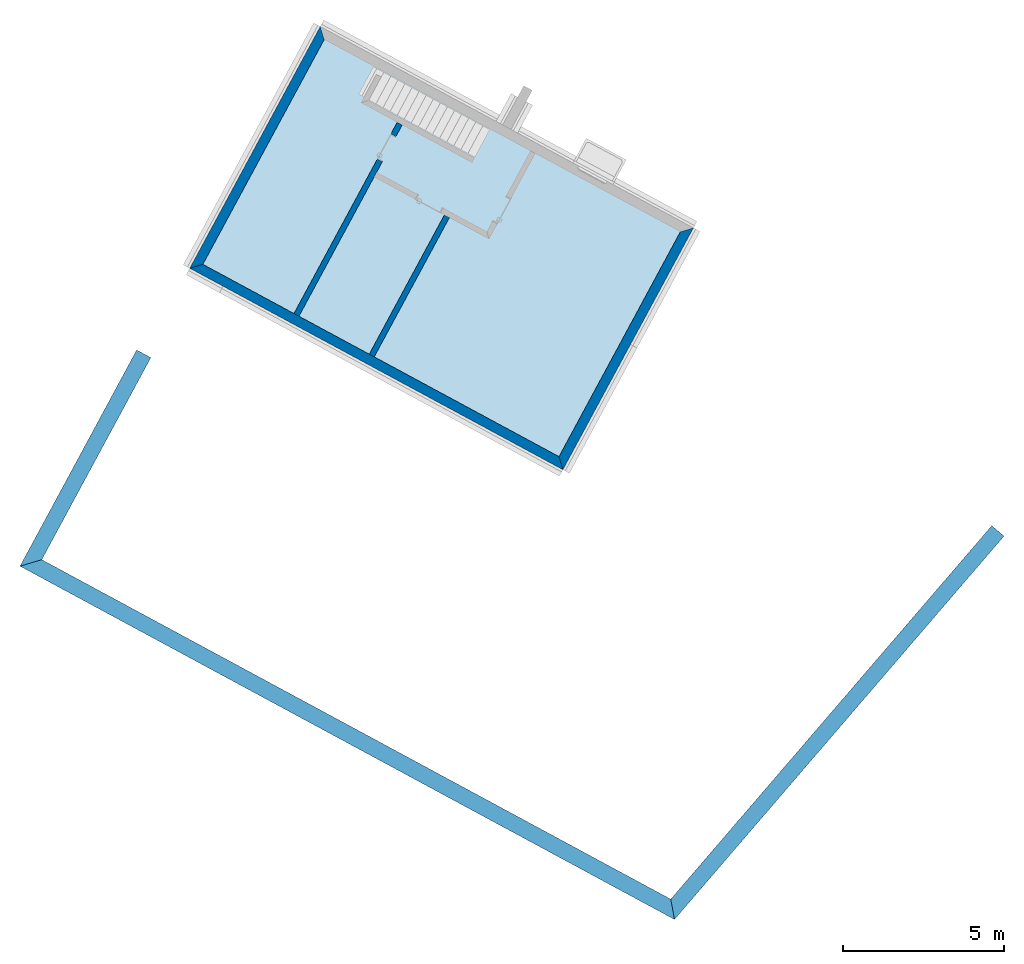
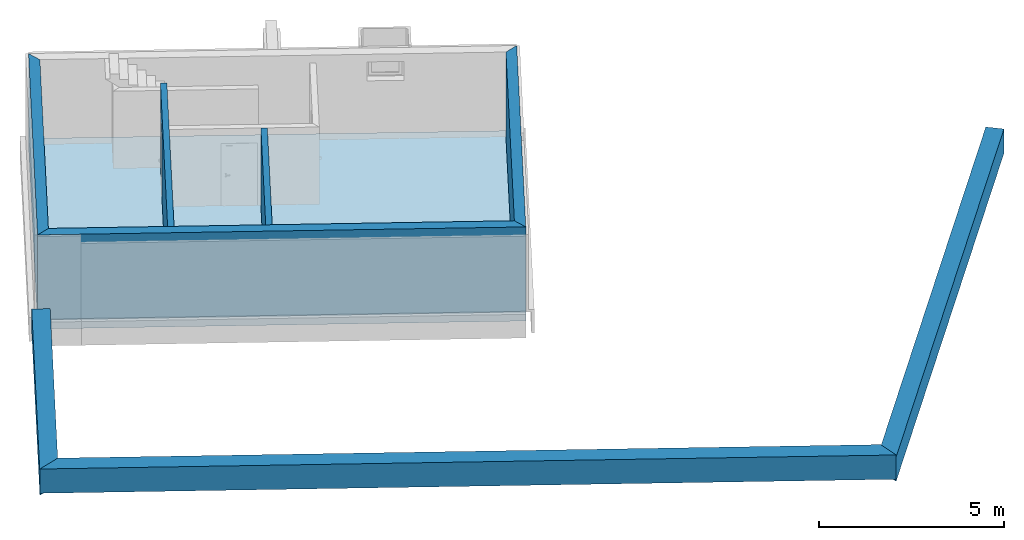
# One storey, part 1 of 8: 5 walls, 3 footings, 1 slab, 1 opening.
"""IFC2X3 building model written with IfcOpenShell, lengths in metres."""

from ifc_helpers import new_model, entity, si_unit, converted_unit, derived_unit, money_unit, direction, frame, origin_with_axes, origin_2d_with_axis, place, context, subcontext, project, spatial, polyline, rectangle, outline, extrude, material, layer, layer_set, layer_usage, type_object, element, save


model = new_model("IFC2X3")

# Units and contexts
model_context = context("Model", 3, precision=1e-05, world=origin_with_axes(), true_north=direction((0.0, 1.0)))
body_context = subcontext(model_context, "Body", "Model", "MODEL_VIEW")
ifc_project = project(units=[si_unit("LENGTHUNIT", "METRE"), si_unit("AREAUNIT", "SQUARE_METRE"), si_unit("VOLUMEUNIT", "CUBIC_METRE"), converted_unit("PLANEANGLEUNIT", "DEGREE", entity("IfcPlaneAngleMeasure", 0.0174532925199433), si_unit("PLANEANGLEUNIT", "RADIAN"), dimensions=[0, 0, 0, 0, 0, 0, 0]), money_unit("EUR"), converted_unit("TIMEUNIT", "Year", entity("IfcTimeMeasure", 31556926.0), si_unit("TIMEUNIT", "SECOND"), dimensions=[0, 0, 1, 0, 0, 0, 0]), si_unit("MASSUNIT", "GRAM", prefix="KILO"), si_unit("THERMODYNAMICTEMPERATUREUNIT", "DEGREE_CELSIUS"), si_unit("LUMINOUSINTENSITYUNIT", "LUMEN"), si_unit("ENERGYUNIT", "JOULE", prefix="MEGA"), derived_unit("THERMALCONDUCTANCEUNIT", [(si_unit("POWERUNIT", "WATT"), 1), (si_unit("LENGTHUNIT", "METRE"), -1), (si_unit("THERMODYNAMICTEMPERATUREUNIT", "KELVIN"), -1)]), derived_unit("SPECIFICHEATCAPACITYUNIT", [(si_unit("ENERGYUNIT", "JOULE"), 1), (si_unit("MASSUNIT", "GRAM", prefix="KILO"), -1), (si_unit("THERMODYNAMICTEMPERATUREUNIT", "KELVIN"), -1)]), derived_unit("MASSDENSITYUNIT", [(si_unit("MASSUNIT", "GRAM", prefix="KILO"), 1), (si_unit("VOLUMEUNIT", "CUBIC_METRE"), -1)])], contexts=[model_context])

# Site, building, storey
site_placement = place(None, frame((-3.949935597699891, 1.740105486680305, 0.0), z_axis=(0.0, 0.0, 1.0), x_axis=(0.8799804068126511, -0.475009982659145, 0.0)))
site = spatial("IfcSite", under=ifc_project, at=site_placement, Name="Gelände", CompositionType="ELEMENT")
building_placement = place(site_placement, origin_with_axes())
building = spatial("IfcBuilding", under=site, at=building_placement, Name="Gebäude", CompositionType="ELEMENT")
storey_placement = place(building_placement, frame((0.0, 0.0, -2.98), z_axis=(0.0, 0.0, 1.0), x_axis=(1.0, 0.0, 0.0)))
storey = spatial("IfcBuildingStorey", under=building, at=storey_placement, Name="Kellergeschoss", CompositionType="ELEMENT", Elevation=-2.98)

# Footings
ifc_material_1 = material(Name="Beton, Stahlbeton C30/35")
footing_1_placement = place(storey_placement, frame((3.937485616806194, 7.638058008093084, 1.68), z_axis=(0.0, 0.0, 1.0), x_axis=(-5.644432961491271e-07, -0.9999999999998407, 0.0)))
element("IfcFooting", 1, at=footing_1_placement, inside=storey, material=ifc_material_1, Name="A-Wand038", PredefinedType="STRIP_FOOTING", context=body_context, shape_type="SweptSolid", body=[
    extrude(outline(polyline([(0.0, 0.0), (7.638058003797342, 0.0), (7.138057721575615, 0.5000000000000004), (0.0, 0.5000000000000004), (0.0, 0.0)])), origin_with_axes(), (0.0, 0.0, 1.0), 0.8),
])
footing_2_placement = place(storey_placement, frame((27.06350757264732, 0.0, 1.68), z_axis=(0.0, 0.0, 1.0), x_axis=(0.2133784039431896, 0.9769696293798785, 0.0)))
element("IfcFooting", 2, at=footing_2_placement, inside=storey, material=ifc_material_1, Name="A-Wand037", PredefinedType="STRIP_FOOTING", context=body_context, shape_type="SweptSolid", body=[
    extrude(outline(polyline([(4.398252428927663e-09, 0.0), (15.71624542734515, 0.0), (15.71624542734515, 0.5), (0.4025824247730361, 0.5000000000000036), (4.398252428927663e-09, 0.0)])), origin_with_axes(), (0.0, 0.0, 1.0), 0.8000000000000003),
])
ifc_material_2 = material(Name="MW Kalksandstein")
footing_3_placement = place(storey_placement, frame((3.937481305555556, 4.296959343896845e-09, 1.75), z_axis=(0.0, 0.0, 1.0), x_axis=(1.0, 0.0, 0.0)))
element("IfcFooting", 3, at=footing_3_placement, inside=storey, material=ifc_material_2, Name="A-Wand036", PredefinedType="STRIP_FOOTING", context=body_context, shape_type="SweptSolid", body=[
    extrude(outline(polyline([(0.0, 0.0), (23.12602626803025, 0.0), (22.72344384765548, 0.5), (0.5000002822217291, 0.5), (0.0, 0.0)])), origin_with_axes(), (0.0, 0.0, 1.0), 0.8000000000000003),
])

# Slab
ifc_material_3 = material(Name="_SIWH - Beton, Stahlbeton")
ifc_layer_1 = layer(ifc_material_3, 0.3, ventilated="UNKNOWN")
ifc_layer_set_1 = layer_set([ifc_layer_1], Name="_SIWH - Beton, Stahlbeton 0.3")
ifc_layer_usage_1 = layer_usage(ifc_layer_set_1, "AXIS3", "NEGATIVE", 0.3)
slab_type = type_object("IfcSlabType", Name="_SIWH - Beton, Stahlbeton 300", PredefinedType="FLOOR")
slab_placement = place(storey_placement, frame((17.36747590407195, 19.20027477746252, 0.0), z_axis=(0.0, 0.0, 1.0), x_axis=(1.0, 0.0, 0.0)))
element("IfcSlab", 4, at=slab_placement, inside=storey, type_object=slab_type, material=ifc_layer_usage_1, Name="Decke027", PredefinedType="FLOOR", context=body_context, shape_type="SweptSolid", body=[
    extrude(outline(polyline([(0.0, 0.0), (-13.18499531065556, 0.0005885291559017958), (-13.1849411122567, -8.542475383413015), (5.71773993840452e-06, -8.542475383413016), (0.0, 0.0)])), frame((0.0, 0.0, -0.3), z_axis=(0.0, 0.0, 1.0), x_axis=(1.0, 0.0, 0.0)), (0.0, 0.0, 1.0), 0.3),
])

# Wall, opening
ifc_material_4 = material(Name="_SIWH - MW Kalksandstein")
ifc_layer_2 = layer(ifc_material_4, 0.175, ventilated="UNKNOWN")
ifc_layer_set_2 = layer_set([ifc_layer_2], Name="_SIWH - WI | KS 17,5 | 17,5cm")
ifc_layer_usage_2 = layer_usage(ifc_layer_set_2, "AXIS2", "NEGATIVE", 0.0)
wall_type_1 = type_object("IfcWallType", Name="_SIWH - WI | KS 17,5 | 17,5cm 175", PredefinedType="NOTDEFINED")
wall_1_placement = place(storey_placement, frame((7.70248103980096, 10.65780061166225, 0.0), z_axis=(0.0, 0.0, 1.0), x_axis=(-4.65564048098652e-06, 0.9999999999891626, 0.0)))
wall_1 = element("IfcWallStandardCase", 5, at=wall_1_placement, inside=storey, type_object=wall_type_1, material=ifc_layer_usage_2, Name="I-Wand025", ObjectType="NOTDEFINED", context=body_context, shape_type="SweptSolid", body=[
    extrude(outline(polyline([(0.2999991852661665, -0.1750000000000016), (7.057487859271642, -0.1750000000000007), (7.057487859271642, 0.0), (0.3000000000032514, 0.0), (0.2999991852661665, -0.1750000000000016)])), origin_with_axes(), (0.0, 0.0, 1.0), 2.8),
])
opening_placement = place(wall_1_placement, frame((6.202878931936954, 0.0, 0.0), z_axis=(0.0, 0.0, 1.0), x_axis=(1.0, 0.0, 0.0)))
element("IfcOpeningElement", 6, at=opening_placement, cuts=wall_1, Name="I-Wand048", context=body_context, shape_type="SweptSolid", body=[
    extrude(rectangle(XDim=0.884999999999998, YDim=2.01, at=origin_2d_with_axis()), frame((0.0, -0.1749999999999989, 1.005), z_axis=(0.0, 1.0, 0.0), x_axis=(1.0, 0.0, 0.0)), (0.0, 0.0, 1.0), 0.5249999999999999),
])

# Walls
ifc_layer_usage_3 = layer_usage(ifc_layer_set_2, "AXIS2", "NEGATIVE", 0.0)
wall_2_placement = place(storey_placement, frame((10.53740846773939, 16.04969649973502, 0.0), z_axis=(0.0, 0.0, 1.0), x_axis=(4.722513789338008e-06, -0.9999999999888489, 0.0)))
element("IfcWallStandardCase", 7, at=wall_2_placement, inside=storey, type_object=wall_type_1, material=ifc_layer_usage_3, Name="I-Wand028", ObjectType="NOTDEFINED", context=body_context, shape_type="SweptSolid", body=[
    extrude(outline(polyline([(0.1749991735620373, -0.1749999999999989), (5.091895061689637, -0.1749999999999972), (5.09189588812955, 0.0), (0.1750000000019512, 0.0), (0.1749991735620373, -0.1749999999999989)])), origin_with_axes(), (0.0, 0.0, 1.0), 2.55),
])
ifc_layer_3 = layer(ifc_material_3, 0.3, ventilated="UNKNOWN")
ifc_layer_set_3 = layer_set([ifc_layer_3], Name="_SIWH - WA | Stb. 30 | 30cm")
ifc_layer_usage_4 = layer_usage(ifc_layer_set_3, "AXIS2", "POSITIVE", 0.0)
wall_type_2 = type_object("IfcWallType", Name="_SIWH - WA | Stb. 30 | 30cm 300", PredefinedType="NOTDEFINED")
wall_3_placement = place(storey_placement, frame((4.182535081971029, 10.65780061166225, 0.0), z_axis=(0.0, 0.0, 1.0), x_axis=(1.0, 0.0, 0.0)))
element("IfcWallStandardCase", 8, at=wall_3_placement, inside=storey, type_object=wall_type_2, material=ifc_layer_usage_4, Name="A-Wand000", ObjectType="NOTDEFINED", context=body_context, shape_type="SweptSolid", body=[
    extrude(outline(polyline([(0.0, 0.0), (13.18494890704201, 0.0), (12.88494870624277, 0.3000000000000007), (0.299998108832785, 0.3000000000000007), (0.0, 0.0)])), origin_with_axes(), (0.0, 0.0, 1.0), 2.8),
])
ifc_layer_usage_5 = layer_usage(ifc_layer_set_3, "AXIS2", "POSITIVE", 0.0)
wall_4_placement = place(storey_placement, frame((17.36748398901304, 10.65780061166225, 0.0), z_axis=(0.0, 0.0, 1.0), x_axis=(-6.693305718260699e-07, 0.9999999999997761, 0.0)))
element("IfcWallStandardCase", 9, at=wall_4_placement, inside=storey, type_object=wall_type_2, material=ifc_layer_usage_5, Name="A-Wand002", ObjectType="NOTDEFINED", context=body_context, shape_type="SweptSolid", body=[
    extrude(outline(polyline([(0.0, 0.0), (8.54251975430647, 0.0), (8.242519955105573, 0.3000000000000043), (0.3000002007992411, 0.3000000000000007), (0.0, 0.0)])), origin_with_axes(), (0.0, 0.0, 1.0), 2.8),
])
ifc_layer_usage_6 = layer_usage(ifc_layer_set_3, "AXIS2", "POSITIVE", 0.0)
wall_5_placement = place(storey_placement, frame((4.182481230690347, 19.2003203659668, 0.0), z_axis=(0.0, 0.0, 1.0), x_axis=(6.303910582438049e-06, -0.9999999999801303, 0.0)))
element("IfcWallStandardCase", 10, at=wall_5_placement, inside=storey, type_object=wall_type_2, material=ifc_layer_usage_6, Name="A-Wand025", ObjectType="NOTDEFINED", context=body_context, shape_type="SweptSolid", body=[
    extrude(outline(polyline([(0.0, 0.0), (8.542519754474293, 0.0), (8.242521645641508, 0.2999999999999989), (0.3000018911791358, 0.2999999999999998), (0.0, 0.0)])), origin_with_axes(), (0.0, 0.0, 1.0), 2.8),
])

save(model, "model.ifc")
